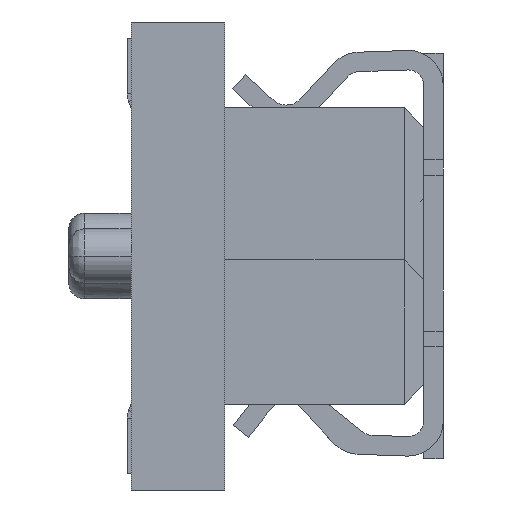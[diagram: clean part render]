
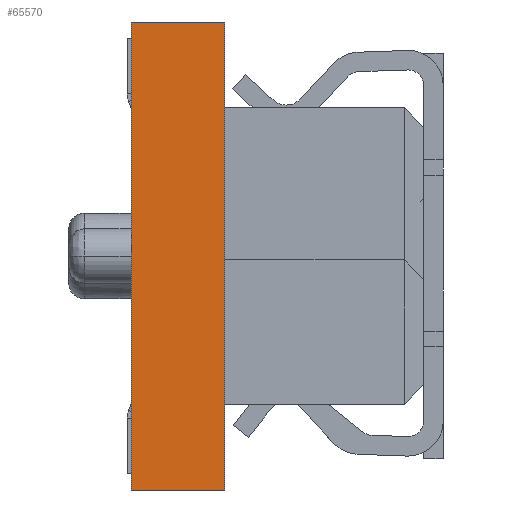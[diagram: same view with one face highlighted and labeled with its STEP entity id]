
A CAD part, front view. The second image highlights one B-rep face of the part: STEP entity #65570.
In plain terms, the highlighted planar face has unit normal (0, -1, 0).
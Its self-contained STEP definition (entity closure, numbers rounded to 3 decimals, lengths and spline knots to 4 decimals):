
#2920=DIRECTION('',(-1.,0.,0.));
#2921=VECTOR('',#2920,1.2);
#2922=CARTESIAN_POINT('',(2.,0.,0.));
#2923=LINE('',#2922,#2921);
#2964=DIRECTION('',(0.,0.,1.));
#2965=VECTOR('',#2964,6.);
#2966=CARTESIAN_POINT('',(0.8,0.,-6.));
#2967=LINE('',#2966,#2965);
#2968=DIRECTION('',(0.,0.,-1.));
#2969=VECTOR('',#2968,6.);
#2970=CARTESIAN_POINT('',(2.,0.,0.));
#2971=LINE('',#2970,#2969);
#2972=DIRECTION('',(-1.,0.,0.));
#2973=VECTOR('',#2972,1.2);
#2974=CARTESIAN_POINT('',(2.,0.,-6.));
#2975=LINE('',#2974,#2973);
#52163=CARTESIAN_POINT('',(0.8,0.,0.));
#52164=VERTEX_POINT('',#52163);
#52165=CARTESIAN_POINT('',(0.8,0.,-6.));
#52166=VERTEX_POINT('',#52165);
#52435=CARTESIAN_POINT('',(2.,0.,-6.));
#52436=VERTEX_POINT('',#52435);
#52437=CARTESIAN_POINT('',(2.,0.,0.));
#52438=VERTEX_POINT('',#52437);
#65559=CARTESIAN_POINT('',(1.4,0.,-3.));
#65560=DIRECTION('',(0.,1.,0.));
#65561=DIRECTION('',(0.,0.,-1.));
#65562=AXIS2_PLACEMENT_3D('',#65559,#65560,#65561);
#65563=PLANE('',#65562);
#65564=ORIENTED_EDGE('',*,*,#65018,.T.);
#65565=ORIENTED_EDGE('',*,*,#65501,.F.);
#65566=ORIENTED_EDGE('',*,*,#65517,.T.);
#65567=ORIENTED_EDGE('',*,*,#65553,.T.);
#65568=EDGE_LOOP('',(#65564,#65565,#65566,#65567));
#65569=FACE_OUTER_BOUND('',#65568,.F.);
#65018=EDGE_CURVE('',#52166,#52164,#2967,.T.);
#65501=EDGE_CURVE('',#52438,#52164,#2923,.T.);
#65517=EDGE_CURVE('',#52438,#52436,#2971,.T.);
#65553=EDGE_CURVE('',#52436,#52166,#2975,.T.);
#65570=ADVANCED_FACE('',(#65569),#65563,.F.);
